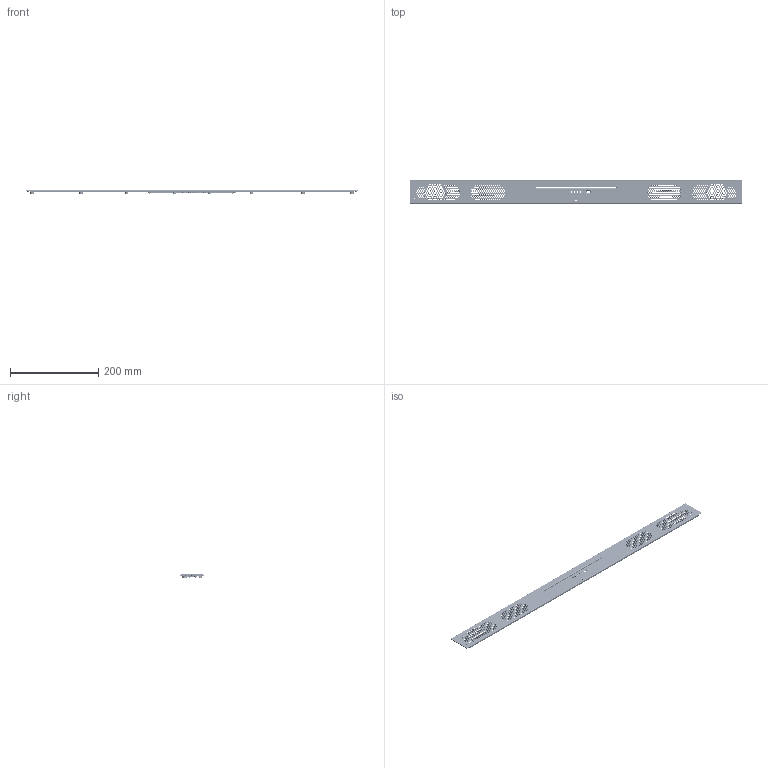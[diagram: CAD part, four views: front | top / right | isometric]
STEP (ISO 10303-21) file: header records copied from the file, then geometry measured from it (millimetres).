
FILE_DESCRIPTION((''),'2;1');
FILE_NAME('FRAME_NET_CENTER_UA300_200903','2021-03-17T',('kym12'),(''),'CREO PARAMETRIC BY PTC INC, 2017170','CREO PARAMETRIC BY PTC INC, 2017170','');
FILE_SCHEMA(('CONFIG_CONTROL_DESIGN'));
Products named in the file (1): FRAME_NET_CENTER_UA300_200903
Bounding box: 754.35 x 52.47 x 8.2 mm (x, y, z)
Volume: 102350.9 mm3; surface area: 97980.7 mm2
Topology: 1 solids, 1 shells, 3658 faces, 8915 edges, 5923 vertices
Faces by surface type: cone 2403, plane 1131, cylinder 100, bspline 22, torus 2
Entity records: 113648 total; most frequent: DIRECTION 21043, CARTESIAN_POINT 20297, ORIENTED_EDGE 17830, EDGE_CURVE 8915, AXIS2_PLACEMENT_3D 8628, VERTEX_POINT 5923, EDGE_LOOP 5476, CIRCLE 4992
